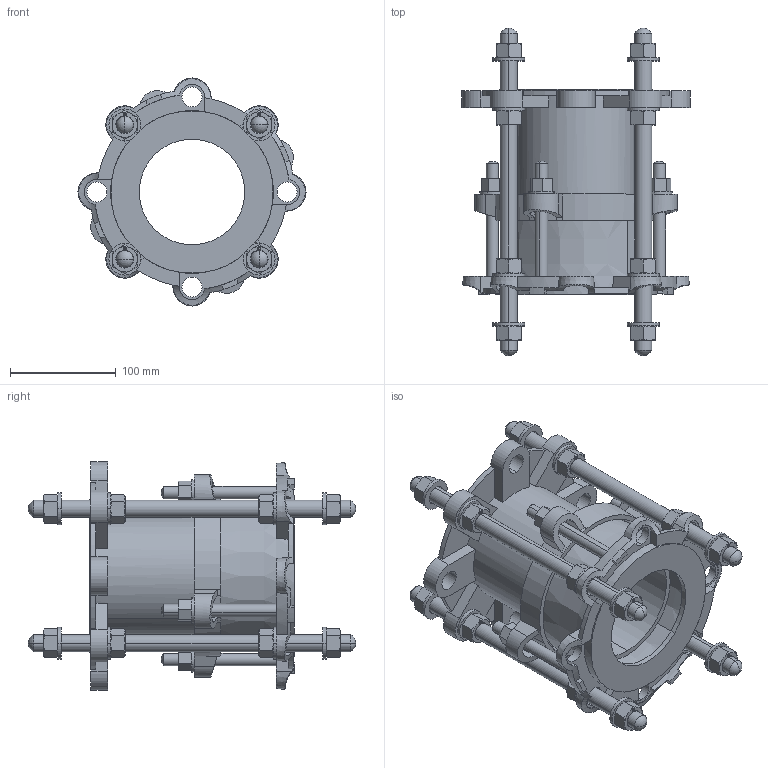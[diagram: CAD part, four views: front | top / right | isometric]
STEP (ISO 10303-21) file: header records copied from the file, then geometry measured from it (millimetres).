
FILE_DESCRIPTION((''),'2;1');
FILE_NAME('BIM_10435_397_ASM','2021-01-11T',('MReader'),(''),'CREO PARAMETRIC BY PTC INC, 2016130','CREO PARAMETRIC BY PTC INC, 2016130','');
FILE_SCHEMA(('CONFIG_CONTROL_DESIGN'));
Length unit declared in the file: millimetre
Products named in the file (9): 13516_BIM; BIM_12488; BIM_12518_08; BIM_12501_06_ASM; 300_TIE_BOLT; 10467_4; 12442_6; M16_NUT_WASHER_ASM; BIM_10435_397_ASM
Assembly tree (26 placements, depth 3):
  BIM_10435_397_ASM
    13516_BIM
    BIM_12501_06_ASM
      BIM_12488
      BIM_12518_08
    300_TIE_BOLT  x4
    M16_NUT_WASHER_ASM  x16
      10467_4
      12442_6
Bounding box: 216 x 310 x 216 mm (x, y, z)
Volume: 1375083.2 mm3; surface area: 484541 mm2
Topology: 39 solids, 55 shells, 1848 faces, 4920 edges, 3158 vertices
Faces by surface type: plane 1274, cone 296, cylinder 238, sphere 24, torus 8, bspline 8
Entity records: 13948 total; most frequent: CARTESIAN_POINT 3428, DIRECTION 2181, ORIENTED_EDGE 2138, EDGE_CURVE 1071, AXIS2_PLACEMENT_3D 808, VERTEX_POINT 695, VECTOR 565, LINE 565
